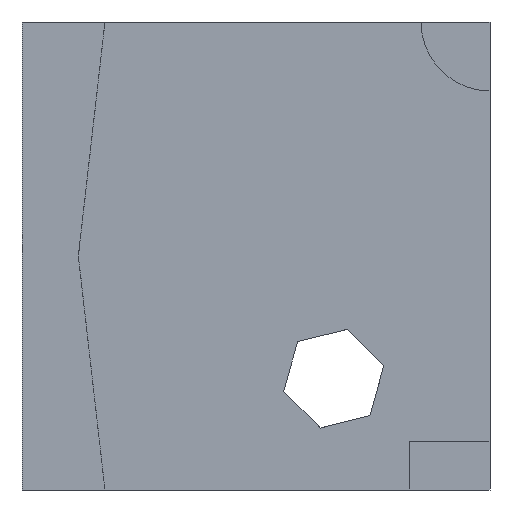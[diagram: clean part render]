
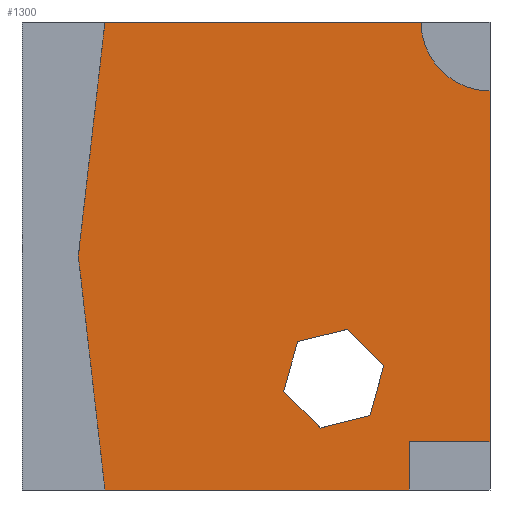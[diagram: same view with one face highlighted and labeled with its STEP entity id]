
A CAD part, front view. The second image highlights one B-rep face of the part: STEP entity #1300.
In plain terms, the highlighted planar face has unit normal (0, -1, 0).
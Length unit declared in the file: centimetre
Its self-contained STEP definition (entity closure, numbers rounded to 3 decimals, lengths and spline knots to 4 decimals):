
#40 = CARTESIAN_POINT ( 'NONE',  ( 588.8958, 0., 316.8568 ) ) ;
#44 = CARTESIAN_POINT ( 'NONE',  ( 1000., 0., 852.6471 ) ) ;
#48 = VECTOR ( 'NONE', #212, 100. ) ;
#58 = CARTESIAN_POINT ( 'NONE',  ( 177.392, 0., 1000. ) ) ;
#118 = DIRECTION ( 'NONE',  ( 1., 0., 0. ) ) ;
#122 = CARTESIAN_POINT ( 'NONE',  ( 1000., 0., 102.7041 ) ) ;
#125 = ORIENTED_EDGE ( 'NONE', *, *, #1440, .F. ) ;
#177 = ORIENTED_EDGE ( 'NONE', *, *, #916, .F. ) ;
#196 = VECTOR ( 'NONE', #1777, 100. ) ;
#201 = LINE ( 'NONE', #501, #196 ) ;
#212 = DIRECTION ( 'NONE',  ( -0.97, 0., -0.244 ) ) ;
#213 = VECTOR ( 'NONE', #914, 100. ) ;
#227 = VECTOR ( 'NONE', #1566, 100. ) ;
#250 = ORIENTED_EDGE ( 'NONE', *, *, #880, .F. ) ;
#282 = DIRECTION ( 'NONE',  ( 0., 1., 0. ) ) ;
#289 = ORIENTED_EDGE ( 'NONE', *, *, #1572, .F. ) ;
#308 = EDGE_CURVE ( 'NONE', #746, #979, #938, .T. ) ;
#339 = VERTEX_POINT ( 'NONE', #40 ) ;
#353 = LINE ( 'NONE', #919, #48 ) ;
#390 = LINE ( 'NONE', #878, #1129 ) ;
#403 = VERTEX_POINT ( 'NONE', #975 ) ;
#409 = EDGE_LOOP ( 'NONE', ( #1663, #1090, #289, #586, #522, #1054 ) ) ;
#433 = ORIENTED_EDGE ( 'NONE', *, *, #1727, .F. ) ;
#438 = VERTEX_POINT ( 'NONE', #833 ) ;
#445 = VECTOR ( 'NONE', #709, 100. ) ;
#456 = EDGE_CURVE ( 'NONE', #339, #1175, #1263, .T. ) ;
#477 = VECTOR ( 'NONE', #1869, 100. ) ;
#491 = ORIENTED_EDGE ( 'NONE', *, *, #920, .T. ) ;
#501 = CARTESIAN_POINT ( 'NONE',  ( 637.3002, 0., 132.4139 ) ) ;
#519 = VECTOR ( 'NONE', #527, 100. ) ;
#522 = ORIENTED_EDGE ( 'NONE', *, *, #456, .F. ) ;
#527 = DIRECTION ( 'NONE',  ( -0.269, 0., -0.963 ) ) ;
#529 = CARTESIAN_POINT ( 'NONE',  ( 773.1237, 0., 265.4592 ) ) ;
#547 = CARTESIAN_POINT ( 'NONE',  ( 559.2214, 0., 210.4927 ) ) ;
#556 = CARTESIAN_POINT ( 'NONE',  ( 588.8958, 0., 316.8568 ) ) ;
#575 = ORIENTED_EDGE ( 'NONE', *, *, #308, .F. ) ;
#586 = ORIENTED_EDGE ( 'NONE', *, *, #890, .F. ) ;
#598 = AXIS2_PLACEMENT_3D ( 'NONE', #1402, #282, #993 ) ;
#605 = ORIENTED_EDGE ( 'NONE', *, *, #1479, .F. ) ;
#617 = DIRECTION ( 'NONE',  ( 0., 0., -1. ) ) ;
#623 = VERTEX_POINT ( 'NONE', #799 ) ;
#626 = VECTOR ( 'NONE', #1829, 100. ) ;
#656 = VERTEX_POINT ( 'NONE', #779 ) ;
#690 = LINE ( 'NONE', #547, #445 ) ;
#709 = DIRECTION ( 'NONE',  ( 0.707, 0., -0.707 ) ) ;
#713 = VECTOR ( 'NONE', #1476, 100. ) ;
#719 = CARTESIAN_POINT ( 'NONE',  ( 827.2892, 0., 102.7041 ) ) ;
#746 = VERTEX_POINT ( 'NONE', #1242 ) ;
#779 = CARTESIAN_POINT ( 'NONE',  ( 827.2892, 0., 0. ) ) ;
#799 = CARTESIAN_POINT ( 'NONE',  ( 743.4493, 0., 159.0952 ) ) ;
#809 = VERTEX_POINT ( 'NONE', #529 ) ;
#833 = CARTESIAN_POINT ( 'NONE',  ( 120.5215, 0., 500. ) ) ;
#878 = CARTESIAN_POINT ( 'NONE',  ( 1000., 0., 1000. ) ) ;
#880 = EDGE_CURVE ( 'NONE', #1393, #1794, #390, .T. ) ;
#886 = EDGE_LOOP ( 'NONE', ( #250, #605, #575, #1060, #433, #491, #125, #177 ) ) ;
#890 = EDGE_CURVE ( 'NONE', #1175, #403, #690, .T. ) ;
#905 = CARTESIAN_POINT ( 'NONE',  ( 695.0449, 0., 343.538 ) ) ;
#914 = DIRECTION ( 'NONE',  ( 1., 0., 0. ) ) ;
#916 = EDGE_CURVE ( 'NONE', #1794, #1598, #1284, .T. ) ;
#919 = CARTESIAN_POINT ( 'NONE',  ( 695.0449, 0., 343.538 ) ) ;
#920 = EDGE_CURVE ( 'NONE', #1480, #656, #1130, .T. ) ;
#937 = CARTESIAN_POINT ( 'NONE',  ( 559.2214, 0., 210.4927 ) ) ;
#938 = LINE ( 'NONE', #1507, #213 ) ;
#965 = CARTESIAN_POINT ( 'NONE',  ( 120.5215, 0., 500. ) ) ;
#975 = CARTESIAN_POINT ( 'NONE',  ( 637.3002, 0., 132.4139 ) ) ;
#979 = VERTEX_POINT ( 'NONE', #1271 ) ;
#989 = EDGE_CURVE ( 'NONE', #809, #1438, #1842, .T. ) ;
#993 = DIRECTION ( 'NONE',  ( 0., 0., 1. ) ) ;
#1004 = DIRECTION ( 'NONE',  ( 0., 0., -1. ) ) ;
#1033 = LINE ( 'NONE', #1178, #713 ) ;
#1054 = ORIENTED_EDGE ( 'NONE', *, *, #1550, .F. ) ;
#1060 = ORIENTED_EDGE ( 'NONE', *, *, #1809, .F. ) ;
#1090 = ORIENTED_EDGE ( 'NONE', *, *, #1336, .F. ) ;
#1128 = FACE_BOUND ( 'NONE', #409, .T. ) ;
#1129 = VECTOR ( 'NONE', #1004, 100. ) ;
#1130 = LINE ( 'NONE', #1142, #1767 ) ;
#1131 = CIRCLE ( 'NONE', #1768, 147.3529 ) ;
#1142 = CARTESIAN_POINT ( 'NONE',  ( 0., 0., 0. ) ) ;
#1159 = CARTESIAN_POINT ( 'NONE',  ( 1000., 0., 1000. ) ) ;
#1175 = VERTEX_POINT ( 'NONE', #937 ) ;
#1178 = CARTESIAN_POINT ( 'NONE',  ( 827.2892, 0., 0. ) ) ;
#1188 = CARTESIAN_POINT ( 'NONE',  ( 177.392, 0., 0. ) ) ;
#1242 = CARTESIAN_POINT ( 'NONE',  ( 177.392, 0., 1000. ) ) ;
#1254 = CARTESIAN_POINT ( 'NONE',  ( 743.4493, 0., 159.0952 ) ) ;
#1263 = LINE ( 'NONE', #556, #519 ) ;
#1271 = CARTESIAN_POINT ( 'NONE',  ( 852.6471, 0., 1000. ) ) ;
#1279 = DIRECTION ( 'NONE',  ( -0.113, 0., 0.994 ) ) ;
#1280 = PLANE ( 'NONE',  #598 ) ;
#1284 = LINE ( 'NONE', #719, #227 ) ;
#1294 = CARTESIAN_POINT ( 'NONE',  ( 773.1237, 0., 265.4592 ) ) ;
#1300 = ADVANCED_FACE ( 'NONE', ( #1128, #1573 ), #1280, .F. ) ;
#1319 = DIRECTION ( 'NONE',  ( 0., -1., 0. ) ) ;
#1336 = EDGE_CURVE ( 'NONE', #623, #809, #1693, .T. ) ;
#1361 = CARTESIAN_POINT ( 'NONE',  ( 827.2892, 0., 102.7041 ) ) ;
#1393 = VERTEX_POINT ( 'NONE', #44 ) ;
#1402 = CARTESIAN_POINT ( 'NONE',  ( 0., 0., 1000. ) ) ;
#1405 = VECTOR ( 'NONE', #1279, 100. ) ;
#1434 = VECTOR ( 'NONE', #1769, 100. ) ;
#1438 = VERTEX_POINT ( 'NONE', #905 ) ;
#1440 = EDGE_CURVE ( 'NONE', #1598, #656, #1033, .T. ) ;
#1476 = DIRECTION ( 'NONE',  ( 0., 0., -1. ) ) ;
#1479 = EDGE_CURVE ( 'NONE', #979, #1393, #1131, .T. ) ;
#1480 = VERTEX_POINT ( 'NONE', #1188 ) ;
#1507 = CARTESIAN_POINT ( 'NONE',  ( 0., 0., 1000. ) ) ;
#1550 = EDGE_CURVE ( 'NONE', #1438, #339, #353, .T. ) ;
#1566 = DIRECTION ( 'NONE',  ( -1., 0., 0. ) ) ;
#1572 = EDGE_CURVE ( 'NONE', #403, #623, #201, .T. ) ;
#1573 = FACE_OUTER_BOUND ( 'NONE', #886, .T. ) ;
#1598 = VERTEX_POINT ( 'NONE', #1361 ) ;
#1663 = ORIENTED_EDGE ( 'NONE', *, *, #989, .F. ) ;
#1678 = LINE ( 'NONE', #965, #1405 ) ;
#1693 = LINE ( 'NONE', #1254, #626 ) ;
#1727 = EDGE_CURVE ( 'NONE', #1480, #438, #1678, .T. ) ;
#1767 = VECTOR ( 'NONE', #118, 100. ) ;
#1768 = AXIS2_PLACEMENT_3D ( 'NONE', #1159, #1319, #617 ) ;
#1769 = DIRECTION ( 'NONE',  ( 0.113, 0., 0.994 ) ) ;
#1776 = LINE ( 'NONE', #58, #1434 ) ;
#1777 = DIRECTION ( 'NONE',  ( 0.97, 0., 0.244 ) ) ;
#1794 = VERTEX_POINT ( 'NONE', #122 ) ;
#1809 = EDGE_CURVE ( 'NONE', #438, #746, #1776, .T. ) ;
#1829 = DIRECTION ( 'NONE',  ( 0.269, 0., 0.963 ) ) ;
#1842 = LINE ( 'NONE', #1294, #477 ) ;
#1869 = DIRECTION ( 'NONE',  ( -0.707, 0., 0.707 ) ) ;
